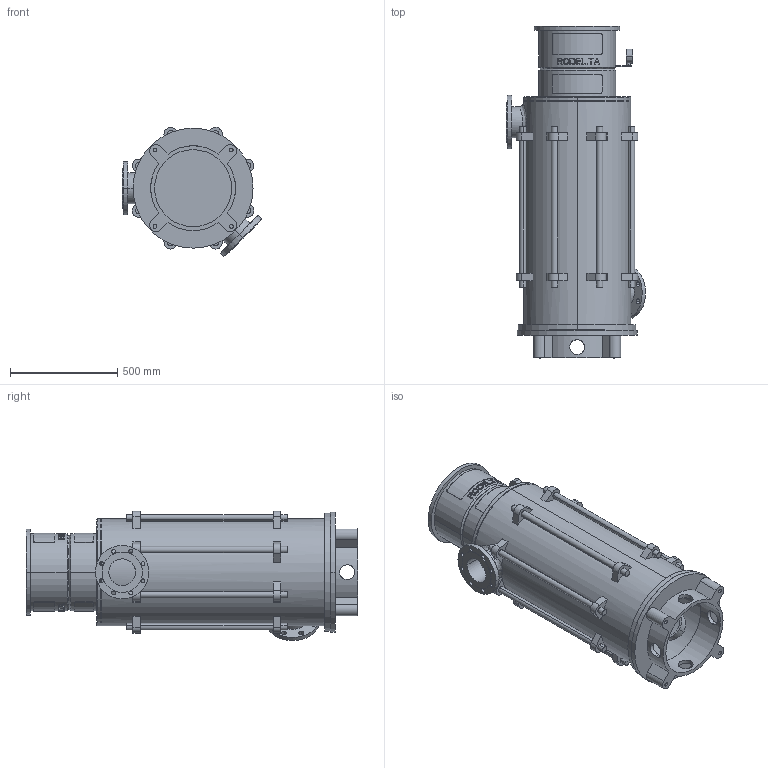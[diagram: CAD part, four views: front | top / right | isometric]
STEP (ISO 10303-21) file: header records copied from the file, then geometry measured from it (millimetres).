
FILE_DESCRIPTION((''),'2;1');
FILE_NAME('LS5_6TR_0GR_TOT_30KW','2023-08-08T',('Lyritlocal'),(''),'PRO/ENGINEER BY PARAMETRIC TECHNOLOGY CORPORATION, 2016360','PRO/ENGINEER BY PARAMETRIC TECHNOLOGY CORPORATION, 2016360','');
FILE_SCHEMA(('CONFIG_CONTROL_DESIGN'));
Length unit declared in the file: millimetre
Products named in the file (1): LS5_6TR_0GR_TOT_30KW
Bounding box: 649.61 x 1550 x 603.65 mm (x, y, z)
Volume: 42740563.8 mm3; surface area: 6335301.6 mm2
Topology: 3 solids, 7 shells, 672 faces, 1747 edges, 1158 vertices
Faces by surface type: plane 414, cylinder 242, cone 12, bspline 4
Entity records: 21923 total; most frequent: CARTESIAN_POINT 5479, ORIENTED_EDGE 3478, DIRECTION 3269, EDGE_CURVE 1747, AXIS2_PLACEMENT_3D 1241, VERTEX_POINT 1158, EDGE_LOOP 809, VECTOR 787
